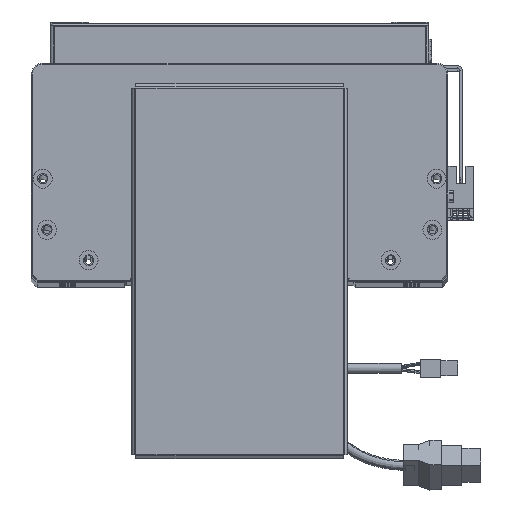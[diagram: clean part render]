
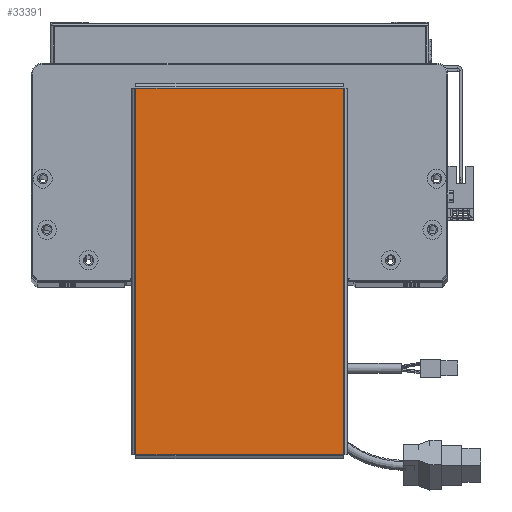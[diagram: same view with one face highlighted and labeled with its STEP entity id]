
A CAD part, top view. The second image highlights one B-rep face of the part: STEP entity #33391.
In plain terms, the highlighted planar face has unit normal (0, 0, 1).
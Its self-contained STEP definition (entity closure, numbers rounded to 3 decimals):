
#446 = LINE ( 'NONE', #9254, #31832 ) ;
#4948 = VERTEX_POINT ( 'NONE', #65160 ) ;
#9254 = CARTESIAN_POINT ( 'NONE',  ( 96.763, -54.793, 0. ) ) ;
#12265 = EDGE_CURVE ( 'NONE', #16652, #4948, #446, .T. ) ;
#13619 = ORIENTED_EDGE ( 'NONE', *, *, #64650, .T. ) ;
#15187 = DIRECTION ( 'NONE',  ( 1., 0., 0. ) ) ;
#16652 = VERTEX_POINT ( 'NONE', #50943 ) ;
#19272 = LINE ( 'NONE', #56790, #67238 ) ;
#22954 = EDGE_LOOP ( 'NONE', ( #58765, #63314, #31758, #13619 ) ) ;
#26377 = DIRECTION ( 'NONE',  ( -1., 0., 0. ) ) ;
#26785 = VERTEX_POINT ( 'NONE', #27144 ) ;
#27144 = CARTESIAN_POINT ( 'NONE',  ( -96.763, -54.763, 0. ) ) ;
#28499 = LINE ( 'NONE', #45115, #45065 ) ;
#29233 = VERTEX_POINT ( 'NONE', #31836 ) ;
#31166 = EDGE_CURVE ( 'NONE', #4948, #29233, #41241, .T. ) ;
#31758 = ORIENTED_EDGE ( 'NONE', *, *, #31166, .T. ) ;
#31832 = VECTOR ( 'NONE', #46206, 1000. ) ;
#31836 = CARTESIAN_POINT ( 'NONE',  ( -96.763, 54.763, 0. ) ) ;
#33391 = ADVANCED_FACE ( 'NONE', ( #39311 ), #44931, .T. ) ;
#39311 = FACE_OUTER_BOUND ( 'NONE', #22954, .T. ) ;
#41241 = LINE ( 'NONE', #53288, #59448 ) ;
#44409 = EDGE_CURVE ( 'NONE', #26785, #16652, #19272, .T. ) ;
#44931 = PLANE ( 'NONE',  #50947 ) ;
#45065 = VECTOR ( 'NONE', #50425, 1000. ) ;
#45115 = CARTESIAN_POINT ( 'NONE',  ( -96.763, 54.793, 0. ) ) ;
#46206 = DIRECTION ( 'NONE',  ( 0., 1., 0. ) ) ;
#50425 = DIRECTION ( 'NONE',  ( 0., -1., 0. ) ) ;
#50943 = CARTESIAN_POINT ( 'NONE',  ( 96.763, -54.763, 0. ) ) ;
#50947 = AXIS2_PLACEMENT_3D ( 'NONE', #65964, #60871, #55549 ) ;
#53288 = CARTESIAN_POINT ( 'NONE',  ( 96.793, 54.763, 0. ) ) ;
#55549 = DIRECTION ( 'NONE',  ( 1., 0., 0. ) ) ;
#56790 = CARTESIAN_POINT ( 'NONE',  ( -96.793, -54.763, 0. ) ) ;
#58765 = ORIENTED_EDGE ( 'NONE', *, *, #44409, .T. ) ;
#59448 = VECTOR ( 'NONE', #26377, 1000. ) ;
#60871 = DIRECTION ( 'NONE',  ( 0., 0., 1. ) ) ;
#63314 = ORIENTED_EDGE ( 'NONE', *, *, #12265, .T. ) ;
#64650 = EDGE_CURVE ( 'NONE', #29233, #26785, #28499, .T. ) ;
#65160 = CARTESIAN_POINT ( 'NONE',  ( 96.763, 54.763, 0. ) ) ;
#65964 = CARTESIAN_POINT ( 'NONE',  ( 0., 0., 0. ) ) ;
#67238 = VECTOR ( 'NONE', #15187, 1000. ) ;
